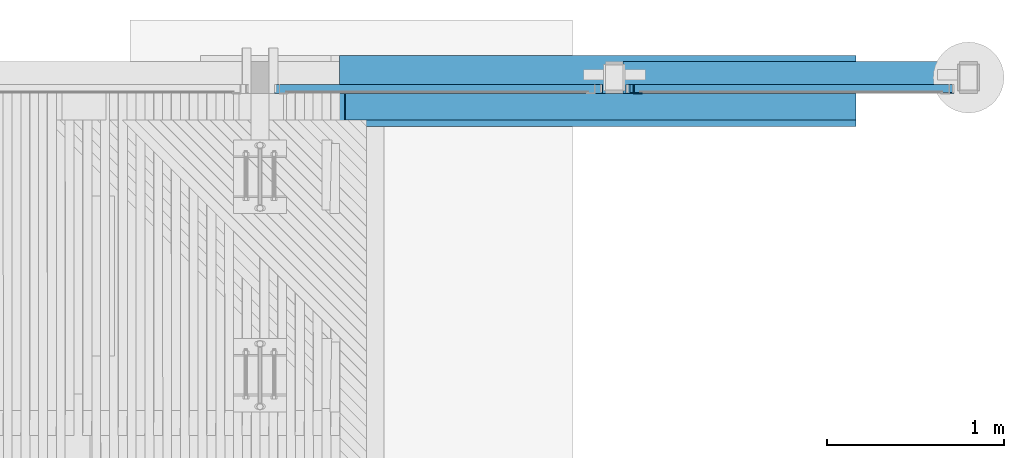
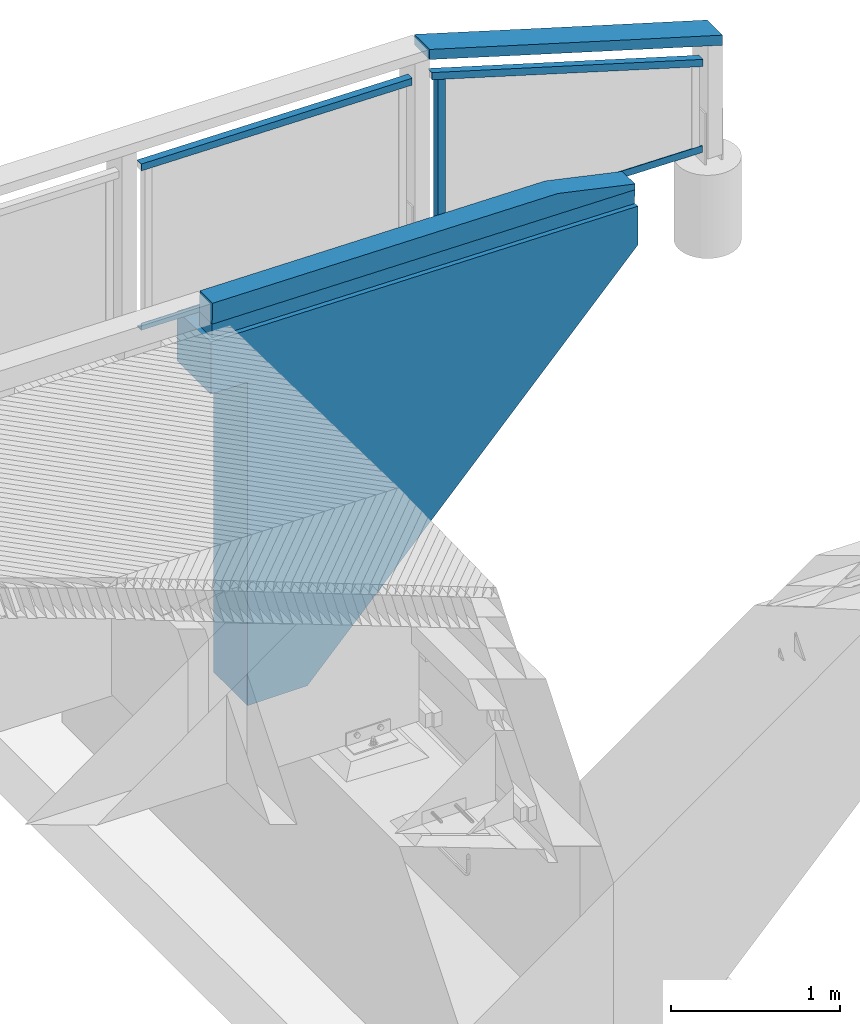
# One storey, part 49 of 65: 9 beams.
"""IFC2X3 building model written with IfcOpenShell, lengths in millimetres."""

from ifc_helpers import new_model, si_unit, frame, origin_with_axes, place, context, subcontext, project, spatial, faceted_brep, material, type_object, element, save


model = new_model("IFC2X3")

# Units and contexts
model_context = context("Model", 3, precision=1e-05, world=origin_with_axes())
body_context = subcontext(model_context, "Body", "Model", "MODEL_VIEW")
ifc_project = project(units=[si_unit("LENGTHUNIT", "METRE", prefix="MILLI"), si_unit("AREAUNIT", "SQUARE_METRE"), si_unit("VOLUMEUNIT", "CUBIC_METRE"), si_unit("MASSUNIT", "GRAM", prefix="KILO"), si_unit("TIMEUNIT", "SECOND"), si_unit("PLANEANGLEUNIT", "RADIAN"), si_unit("SOLIDANGLEUNIT", "STERADIAN"), si_unit("THERMODYNAMICTEMPERATUREUNIT", "DEGREE_CELSIUS"), si_unit("LUMINOUSINTENSITYUNIT", "LUMEN")], contexts=[model_context])

# Site, building, storey
site_placement = place(None, origin_with_axes())
site = spatial("IfcSite", under=ifc_project, at=site_placement, Name="Undefined", CompositionType="ELEMENT")
building_placement = place(site_placement, origin_with_axes())
building = spatial("IfcBuilding", under=site, at=building_placement, Name="Undefined", CompositionType="ELEMENT")
storey_placement = place(building_placement, origin_with_axes())
storey = spatial("IfcBuildingStorey", under=building, at=storey_placement, Name="Undefined", CompositionType="ELEMENT", Elevation=0.0)

# Beams
ifc_material_1 = material(Name="TIMBER/Timber_Undefined")
beam_type_1 = type_object("IfcBeamType", Name="150*100", PredefinedType="NOTDEFINED")
beam_1_placement = place(storey_placement, frame((19364.0305880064, 24439.9999999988, 3118.67572907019), z_axis=(0.0, -1.0, 0.0), x_axis=(-0.999904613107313, 0.0, 0.0138117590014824)))
element("IfcBeam", 1, at=beam_1_placement, inside=storey, type_object=beam_type_1, material=ifc_material_1, Name="TÖRMÄYSJOHDE", ObjectType="150*100", context=body_context, shape_type="Brep", body=[
    faceted_brep([(-3.63797880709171e-12, 50.0, -75.0), (-3.63797880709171e-12, 50.0, 75.0), (2885.27521749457, 50.0, 75.0), (2885.27521749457, 50.0, -75.0), (0.0, -49.9999999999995, 75.0), (2885.27521749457, -49.9999999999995, 75.0), (0.0, -49.9999999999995, -75.0), (2885.27521749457, -49.9999999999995, -75.0)], [[[0, 1, 2, 3]], [[1, 4, 5, 2]], [[4, 6, 7, 5]], [[6, 0, 3, 7]], [[5, 7, 3, 2]], [[6, 4, 1, 0]]]),
])
beam_type_2 = type_object("IfcBeamType", Name="150*150", PredefinedType="NOTDEFINED")
beam_2_placement = place(storey_placement, frame((19366.0358819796, 24439.9999999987, 3243.66334439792), z_axis=(0.0, -1.0, 0.0), x_axis=(-0.999904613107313, 0.0, 0.0138117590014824)))
element("IfcBeam", 2, at=beam_2_placement, inside=storey, type_object=beam_type_2, material=ifc_material_1, Name="TÖRMÄYSJOHDE", ObjectType="150*150", context=body_context, shape_type="Brep", body=[
    faceted_brep([(2885.27521749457, -74.9999999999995, 75.0), (2885.27521749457, -74.9999999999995, -75.0), (2885.27521749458, 75.0, -75.0), (2885.27521749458, 75.0, 75.0), (3.63797880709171e-12, 75.0000000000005, -75.0), (3.63797880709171e-12, 75.0000000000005, 75.0), (3.63797880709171e-12, 33.1222400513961, -75.0), (3.63797880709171e-12, 33.1222400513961, 75.0), (529.511118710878, -75.0, 75.0), (529.511118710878, -75.0, -75.0)], [[[0, 1, 2, 3]], [[4, 5, 3, 2]], [[5, 4, 6, 7]], [[0, 3, 5, 7, 8]], [[1, 0, 8, 9]], [[4, 2, 1, 9, 6]], [[8, 7, 6, 9]]]),
])
ifc_material_2 = material(Name="CONCRETE/Concrete_Undefined")
beam_type_3 = type_object("IfcBeamType", Name="2800*400", PredefinedType="NOTDEFINED")
beam_3_placement = place(storey_placement, frame((16430.3400332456, 24530.0, 1712.66804762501), z_axis=(0.0140428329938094, 0.0, 0.999901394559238), x_axis=(0.999901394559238, 0.0, -0.0140428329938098)))
element("IfcBeam", 3, at=beam_3_placement, inside=storey, type_object=beam_type_3, material=ifc_material_2, Name="SIIPIMUURI", ObjectType="2800*400", context=body_context, shape_type="Brep", body=[
    faceted_brep([(0.280884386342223, 199.999999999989, 1380.0), (3.63797880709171e-12, -200.0, 1400.0), (2915.2874638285, -200.0, 1400.0), (2915.5683481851, 200.0, 1380.0), (270.457242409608, 199.999999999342, -54.8754727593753), (270.457242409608, -200.0, -54.8754727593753), (255.29098277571, -200.0, 1025.01803336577), (255.29098277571, 199.999999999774, 1025.01803336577), (288.066954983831, 200.0, -1308.75182153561), (288.066954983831, -200.0, -1308.75182153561), (697.173583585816, 200.0, -1303.00623892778), (697.173583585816, -200.0, -1303.00623892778), (2919.22031514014, 200.0, 1119.96651154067), (2919.22031514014, -200.0, 1119.96651154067), (5.31563413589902, -200.0, 1021.50732511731), (5.31563413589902, 199.999999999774, 1021.50732511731)], [[[0, 1, 2, 3]], [[4, 5, 6, 7]], [[8, 9, 5, 4]], [[10, 11, 9, 8]], [[12, 13, 11, 10]], [[13, 12, 3, 2]], [[6, 5, 9, 11, 13, 2, 1, 14]], [[7, 6, 14, 15]], [[12, 10, 8, 4, 7, 15, 0, 3]], [[15, 14, 1, 0]]]),
])
ifc_material_3 = material(Name="STEEL/S235JR")
beam_type_4 = type_object("IfcBeamType", Name="L50*5", PredefinedType="NOTDEFINED")
beam_4_placement = place(storey_placement, frame((18132.4988327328, 24539.9900000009, 4313.72557635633), z_axis=(0.0, 1.0, 0.0), x_axis=(0.0, 0.0, -1.0)))
element("IfcBeam", 4, at=beam_4_placement, inside=storey, type_object=beam_type_4, material=ifc_material_3, Name="BEAM", ObjectType="L50*5", context=body_context, shape_type="Brep", body=[
    faceted_brep([(0.433759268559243, 25.0, -25.0), (0.433759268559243, 25.0, 25.0), (1081.79211420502, 25.0, 25.0), (1081.79211420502, 25.0, -25.0), (1.92634540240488, 20.0, 25.0), (1081.79211420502, 20.0, 25.0), (1.92634540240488, 20.0, -20.0), (1081.79211420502, 20.0, -20.0), (15.3596206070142, -25.0, -20.0), (1081.79211420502, -25.0, -20.0), (15.3596206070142, -25.0, -25.0), (1081.79211420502, -25.0, -25.0)], [[[0, 1, 2, 3]], [[1, 4, 5, 2]], [[4, 6, 7, 5]], [[6, 8, 9, 7]], [[8, 10, 11, 9]], [[10, 0, 3, 11]], [[5, 7, 9, 11, 3, 2]], [[10, 8, 6, 4, 1, 0]]]),
])
beam_5_placement = place(storey_placement, frame((18083.3729630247, 24539.9900000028, 3207.2917129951), z_axis=(0.0, 1.0, 0.0), x_axis=(0.999888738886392, 0.0, -0.0149167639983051)))
element("IfcBeam", 5, at=beam_5_placement, inside=storey, type_object=beam_type_4, material=ifc_material_3, Name="BEAM", ObjectType="L50*5", context=body_context, shape_type="Brep", body=[
    faceted_brep([(4.50264671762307, 24.9999999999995, -25.0), (4.50264671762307, 24.9999999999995, 25.0), (1829.70266874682, 24.9999999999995, 25.0), (1829.70266874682, 24.9999999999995, -25.0), (4.42805459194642, 20.0, 25.0), (1829.62807662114, 20.0000000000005, 25.0), (4.42805459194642, 20.0, -20.0), (1829.62807662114, 20.0000000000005, -20.0), (3.7567255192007, -24.9999999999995, -20.0), (1828.9567475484, -25.0, -20.0), (3.7567255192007, -24.9999999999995, -25.0), (1828.9567475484, -25.0, -25.0)], [[[0, 1, 2, 3]], [[1, 4, 5, 2]], [[4, 6, 7, 5]], [[6, 8, 9, 7]], [[8, 10, 11, 9]], [[10, 0, 3, 11]], [[5, 7, 9, 11, 3, 2]], [[10, 8, 6, 4, 1, 0]]]),
])
beam_6_placement = place(storey_placement, frame((16083.3729630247, 24539.9900000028, 3237.1285610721), z_axis=(0.0, 1.0, 0.0), x_axis=(0.999888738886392, 0.0, -0.0149167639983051)))
element("IfcBeam", 6, at=beam_6_placement, inside=storey, type_object=beam_type_4, material=ifc_material_3, Name="BEAM", ObjectType="L50*5", context=body_context, shape_type="Brep", body=[
    faceted_brep([(0.0, 25.0, -25.0), (0.0, 25.0, 25.0), (1849.2053154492, 25.0, 25.0), (1849.2053154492, 25.0, -25.0), (0.0, 20.0, 25.0), (1849.2053154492, 20.0, 25.0), (0.0, 20.0, -20.0), (1849.2053154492, 20.0, -20.0), (0.0, -25.0, -20.0), (1849.2053154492, -24.9999999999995, -20.0), (0.0, -25.0, -25.0), (1849.2053154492, -24.9999999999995, -25.0)], [[[0, 1, 2, 3]], [[1, 4, 5, 2]], [[4, 6, 7, 5]], [[6, 8, 9, 7]], [[8, 10, 11, 9]], [[10, 0, 3, 11]], [[5, 7, 9, 11, 3, 2]], [[10, 8, 6, 4, 1, 0]]]),
])
beam_7_placement = place(storey_placement, frame((19925.5986132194, 24539.9899999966, 3796.64555509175), z_axis=(0.0, 1.0, 0.0), x_axis=(-0.958216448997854, 0.0, 0.286044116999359)))
element("IfcBeam", 7, at=beam_7_placement, inside=storey, type_object=beam_type_4, material=ifc_material_3, Name="BEAM", ObjectType="L50*5", context=body_context, shape_type="Brep", body=[
    faceted_brep([(15.918454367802, 25.0000000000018, -25.0), (15.918454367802, 25.0000000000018, 25.0), (1946.58850666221, 25.0000000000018, 25.0), (1946.58850666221, 25.0000000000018, -25.0), (14.4258682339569, 20.0000000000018, 25.0), (1945.09592052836, 20.0, 25.0), (14.4258682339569, 20.0000000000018, -20.0), (1945.09592052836, 20.0, -20.0), (0.992593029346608, -25.0, -20.0), (1931.66264532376, -24.9999999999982, -20.0), (0.992593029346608, -25.0, -25.0), (1931.66264532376, -24.9999999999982, -25.0)], [[[0, 1, 2, 3]], [[1, 4, 5, 2]], [[4, 6, 7, 5]], [[6, 8, 9, 7]], [[8, 10, 11, 9]], [[10, 0, 3, 11]], [[5, 7, 9, 11, 3, 2]], [[10, 8, 6, 4, 1, 0]]]),
])
beam_8_placement = place(storey_placement, frame((17931.6266682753, 24539.9899999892, 4359.54864823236), z_axis=(0.0, 1.0, 0.0), x_axis=(-0.999888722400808, 0.0, 0.0149178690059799)))
element("IfcBeam", 8, at=beam_8_placement, inside=storey, type_object=beam_type_4, material=ifc_material_3, Name="BEAM", ObjectType="L50*5", context=body_context, shape_type="Brep", body=[
    faceted_brep([(0.0, 25.0, -25.0), (0.0, 25.0, 25.0), (1849.2053154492, 25.0, 25.0), (1849.2053154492, 25.0, -25.0), (0.0, 20.0, 25.0), (1849.2053154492, 20.0, 25.0), (0.0, 20.0, -20.0), (1849.2053154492, 20.0, -20.0), (0.0, -25.0, -20.0), (1849.2053154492, -24.9999999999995, -20.0), (0.0, -25.0, -25.0), (1849.2053154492, -24.9999999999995, -25.0)], [[[0, 1, 2, 3]], [[1, 4, 5, 2]], [[4, 6, 7, 5]], [[6, 8, 9, 7]], [[8, 10, 11, 9]], [[10, 0, 3, 11]], [[5, 7, 9, 11, 3, 2]], [[10, 8, 6, 4, 1, 0]]]),
])
beam_type_5 = type_object("IfcBeamType", Name="180*70", PredefinedType="NOTDEFINED")
beam_9_placement = place(storey_placement, frame((18039.9342024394, 24605.0099640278, 4517.05500293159), z_axis=(0.0, -1.0, 0.0), x_axis=(0.958243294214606, 0.0, -0.285954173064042)))
element("IfcBeam", 9, at=beam_9_placement, inside=storey, type_object=beam_type_5, material=ifc_material_1, Name="YLÄJOHDE", ObjectType="180*70", context=body_context, shape_type="Brep", body=[
    faceted_brep([(41.6879268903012, -35.0699417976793, -90.0), (41.6879268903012, -35.0699417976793, 90.0), (20.9594530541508, -35.0351891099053, 90.0), (20.9594530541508, -35.0351891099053, -90.0), (41.8028913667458, 34.9299637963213, 90.0), (0.0598773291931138, 34.9999487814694, 90.0), (41.8028913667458, 34.9299637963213, -90.0), (0.0598773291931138, 34.9999487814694, -90.0), (83.5459100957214, 34.8628353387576, -90.0), (83.4357358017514, -35.1370779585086, -90.0), (83.4357358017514, -35.1370779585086, 90.0), (83.5459100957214, 34.8628353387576, 90.0), (125.288933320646, 34.7985634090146, 90.0), (125.288933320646, 34.7985634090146, -90.0), (125.183549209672, -35.2013572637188, -90.0), (125.183549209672, -35.2013572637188, 90.0), (166.931366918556, -35.2627797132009, 90.0), (167.031960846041, 34.7371480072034, 90.0), (167.031960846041, 34.7371480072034, -90.0), (166.931366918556, -35.2627797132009, -90.0), (208.679188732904, -35.3213453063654, -90.0), (208.679188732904, -35.3213453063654, 90.0), (208.774992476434, 34.6785891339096, 90.0), (208.774992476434, 34.6785891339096, -90.0), (250.518028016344, 34.6228867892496, -90.0), (250.42701445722, -35.3770540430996, -90.0), (250.42701445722, -35.3770540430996, 90.0), (250.518028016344, 34.6228867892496, 90.0), (292.261067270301, 34.5700409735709, 90.0), (292.261067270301, 34.5700409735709, -90.0), (292.174843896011, -35.4299059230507, -90.0), (292.174843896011, -35.4299059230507, 90.0), (333.922676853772, -35.4799009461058, 90.0), (334.004110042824, 34.52005168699, 90.0), (334.004110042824, 34.52005168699, -90.0), (333.922676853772, -35.4799009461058, -90.0), (375.670513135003, -35.5270391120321, -90.0), (375.670513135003, -35.5270391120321, 90.0), (375.747156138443, 34.4729189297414, 90.0), (375.747156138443, 34.4729189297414, -90.0), (417.490205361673, 34.4286427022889, -90.0), (417.418352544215, -35.5713204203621, -90.0), (417.418352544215, -35.5713204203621, 90.0), (417.490205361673, 34.4286427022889, 90.0), (459.233257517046, 34.3872230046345, 90.0), (459.233257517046, 34.3872230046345, -90.0), (459.166194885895, -35.6127448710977, -90.0), (459.166194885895, -35.6127448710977, 90.0), (500.914039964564, -35.6513124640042, 90.0), (500.97631240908, 34.3486598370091, 90.0), (500.97631240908, 34.3486598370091, -90.0), (500.914039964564, -35.6513124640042, -90.0), (542.661887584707, -35.6870231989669, -90.0), (542.661887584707, -35.6870231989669, 90.0), (542.719369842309, 34.3129531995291, 90.0), (542.719369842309, 34.3129531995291, -90.0), (584.462429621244, 34.2801030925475, -90.0), (584.40973755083, -35.7198770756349, -90.0), (584.40973755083, -35.7198770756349, 90.0), (584.462429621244, 34.2801030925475, 90.0), (626.205491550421, 34.2501095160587, 90.0), (626.205491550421, 34.2501095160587, -90.0), (626.157589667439, -35.7498740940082, -90.0), (626.157589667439, -35.7498740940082, 90.0), (667.905443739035, -35.7770142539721, 90.0), (667.948555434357, 34.2229724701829, 90.0), (667.948555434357, 34.2229724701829, -90.0), (667.905443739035, -35.7770142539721, -90.0), (709.653299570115, -35.801297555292, -90.0), (709.653299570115, -35.801297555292, 90.0), (709.691621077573, 34.1986919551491, 90.0), (709.691621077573, 34.1986919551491, -90.0), (751.434688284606, 34.1772679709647, -90.0), (751.401156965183, -35.8227239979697, -90.0), (751.401156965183, -35.8227239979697, 90.0), (751.434688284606, 34.1772679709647, 90.0), (793.177756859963, 34.1587005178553, 90.0), (793.177756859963, 34.1587005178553, -90.0), (793.149015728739, -35.8412935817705, -90.0), (793.149015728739, -35.8412935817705, 90.0), (834.896875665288, -35.8570063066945, 90.0), (834.920826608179, 34.1429895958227, 90.0), (834.920826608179, 34.1429895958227, -90.0), (834.896875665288, -35.8570063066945, -90.0), (876.644736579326, -35.8698621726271, -90.0), (876.644736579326, -35.8698621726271, 90.0), (876.663897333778, 34.1301352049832, 90.0), (876.663897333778, 34.1301352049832, -90.0), (918.406968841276, 34.1201373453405, -90.0), (918.392598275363, -35.8798611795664, -90.0), (918.392598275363, -35.8798611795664, 90.0), (918.406968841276, 34.1201373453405, 90.0), (960.150040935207, 34.112996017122, 90.0), (960.150040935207, 34.112996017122, -90.0), (960.140460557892, -35.8870033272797, -90.0), (960.140460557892, -35.8870033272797, 90.0), (1001.88832323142, -35.8912886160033, 90.0), (1001.89311342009, 34.1087112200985, 90.0), (1001.89311342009, 34.1087112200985, -90.0), (1001.88832323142, -35.8912886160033, -90.0), (1043.63618610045, -35.8927170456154, -90.0), (1043.63618610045, -35.8927170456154, 90.0), (1043.63618610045, 34.1072829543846, 90.0), (1043.63618610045, 34.1072829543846, -90.0), (1085.3792587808, 34.1087112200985, -90.0), (1085.38404896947, -35.8912886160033, -90.0), (1085.38404896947, -35.8912886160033, 90.0), (1085.3792587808, 34.1087112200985, 90.0), (1127.12233126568, 34.112996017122, 90.0), (1127.12233126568, 34.112996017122, -90.0), (1127.131911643, -35.8870033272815, -90.0), (1127.131911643, -35.8870033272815, 90.0), (1168.87977392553, -35.8798611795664, 90.0), (1168.86540335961, 34.1201373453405, 90.0), (1168.86540335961, 34.1201373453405, -90.0), (1168.87977392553, -35.8798611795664, -90.0), (1210.62763562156, -35.8698621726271, -90.0), (1210.62763562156, -35.8698621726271, 90.0), (1210.60847486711, 34.130135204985, 90.0), (1210.60847486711, 34.130135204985, -90.0), (1252.35154559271, 34.1429895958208, -90.0), (1252.3754965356, -35.8570063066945, -90.0), (1252.3754965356, -35.8570063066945, 90.0), (1252.35154559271, 34.1429895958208, 90.0), (1294.09461534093, 34.1587005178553, 90.0), (1294.09461534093, 34.1587005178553, -90.0), (1294.12335647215, -35.8412935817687, -90.0), (1294.12335647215, -35.8412935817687, 90.0), (1335.87121523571, -35.8227239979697, 90.0), (1335.83768391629, 34.1772679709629, 90.0), (1335.83768391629, 34.1772679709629, -90.0), (1335.87121523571, -35.8227239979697, -90.0), (1377.61907263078, -35.801297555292, -90.0), (1377.61907263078, -35.801297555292, 90.0), (1377.58075112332, 34.1986919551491, 90.0), (1377.58075112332, 34.1986919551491, -90.0), (1419.32381676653, 34.222972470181, -90.0), (1419.36692846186, -35.7770142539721, -90.0), (1419.36692846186, -35.7770142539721, 90.0), (1419.32381676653, 34.222972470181, 90.0), (1461.06688065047, 34.2501095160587, 90.0), (1461.06688065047, 34.2501095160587, -90.0), (1461.11478253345, -35.74987409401, -90.0), (1461.11478253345, -35.74987409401, 90.0), (1502.86263465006, -35.7198770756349, 90.0), (1502.80994257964, 34.2801030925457, 90.0), (1502.80994257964, 34.2801030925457, -90.0), (1502.86263465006, -35.7198770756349, -90.0), (1544.61048461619, -35.6870231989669, -90.0), (1544.61048461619, -35.6870231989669, 90.0), (1544.55300235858, 34.3129531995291, 90.0), (1544.55300235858, 34.3129531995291, -90.0), (1586.29605979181, 34.3486598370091, -90.0), (1586.35833223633, -35.6513124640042, -90.0), (1586.35833223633, -35.6513124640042, 90.0), (1586.29605979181, 34.3486598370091, 90.0), (1628.03911468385, 34.3872230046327, 90.0), (1628.03911468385, 34.3872230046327, -90.0), (1628.10617731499, -35.6127448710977, -90.0), (1628.10617731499, -35.6127448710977, 90.0), (1669.85401965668, -35.5713204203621, 90.0), (1669.78216683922, 34.4286427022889, 90.0), (1669.78216683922, 34.4286427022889, -90.0), (1669.85401965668, -35.5713204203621, -90.0), (1711.60185906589, -35.5270391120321, -90.0), (1711.60185906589, -35.5270391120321, 90.0), (1711.52521606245, 34.4729189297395, 90.0), (1711.52521606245, 34.4729189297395, -90.0), (1753.26826215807, 34.52005168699, -90.0), (1753.34969534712, -35.4799009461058, -90.0), (1753.34969534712, -35.4799009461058, 90.0), (1753.26826215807, 34.52005168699, 90.0), (1795.01130493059, 34.5700409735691, 90.0), (1795.01130493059, 34.5700409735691, -90.0), (1795.09752830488, -35.4299059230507, -90.0), (1795.09752830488, -35.4299059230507, 90.0), (1836.84535774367, -35.3770540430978, 90.0), (1836.75434418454, 34.6228867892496, 90.0), (1836.75434418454, 34.6228867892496, -90.0), (1836.84535774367, -35.3770540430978, -90.0), (1878.59318346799, -35.3213453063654, -90.0), (1878.59318346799, -35.3213453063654, 90.0), (1878.49737972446, 34.6785891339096, 90.0), (1878.49737972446, 34.6785891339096, -90.0), (1920.24041135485, 34.7371480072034, -90.0), (1920.34100528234, -35.2627797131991, -90.0), (1920.34100528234, -35.2627797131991, 90.0), (1920.24041135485, 34.7371480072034, 90.0), (1961.98343888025, 34.7985634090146, 90.0), (1961.98343888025, 34.7985634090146, -90.0), (1962.08882299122, -35.2013572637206, -90.0), (1962.08882299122, -35.2013572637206, 90.0), (2003.83663639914, -35.1370779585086, 90.0), (2003.72646210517, 34.8628353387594, 90.0), (2003.72646210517, 34.8628353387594, -90.0), (2003.83663639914, -35.1370779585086, -90.0), (2045.58444531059, -35.0699417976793, 90.0), (2045.58444531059, -35.0699417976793, -90.0), (2087.33224953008, -34.9999487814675, -90.0), (2087.33224953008, -34.9999487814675, 90.0), (2045.46948083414, 34.9299637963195, 90.0), (2045.46948083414, 34.9299637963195, -90.0), (2087.2124948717, 34.9999487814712, -90.0), (2108.09074495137, -34.9637252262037, -90.0), (2108.09074495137, -34.9637252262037, 90.0), (2087.2124948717, 34.9999487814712, 90.0)], [[[0, 1, 2, 3]], [[1, 4, 5, 2]], [[4, 6, 7, 5]], [[2, 5, 7, 3]], [[6, 0, 3, 7]], [[0, 6, 8, 9]], [[1, 0, 9, 10]], [[4, 1, 10, 11]], [[6, 4, 11, 8]], [[8, 11, 12, 13]], [[9, 8, 13, 14]], [[10, 9, 14, 15]], [[11, 10, 15, 12]], [[12, 15, 16, 17]], [[13, 12, 17, 18]], [[14, 13, 18, 19]], [[15, 14, 19, 16]], [[16, 19, 20, 21]], [[17, 16, 21, 22]], [[18, 17, 22, 23]], [[19, 18, 23, 20]], [[20, 23, 24, 25]], [[21, 20, 25, 26]], [[22, 21, 26, 27]], [[23, 22, 27, 24]], [[24, 27, 28, 29]], [[25, 24, 29, 30]], [[26, 25, 30, 31]], [[27, 26, 31, 28]], [[28, 31, 32, 33]], [[29, 28, 33, 34]], [[30, 29, 34, 35]], [[31, 30, 35, 32]], [[32, 35, 36, 37]], [[33, 32, 37, 38]], [[34, 33, 38, 39]], [[35, 34, 39, 36]], [[36, 39, 40, 41]], [[37, 36, 41, 42]], [[38, 37, 42, 43]], [[39, 38, 43, 40]], [[40, 43, 44, 45]], [[41, 40, 45, 46]], [[42, 41, 46, 47]], [[43, 42, 47, 44]], [[44, 47, 48, 49]], [[45, 44, 49, 50]], [[46, 45, 50, 51]], [[47, 46, 51, 48]], [[48, 51, 52, 53]], [[49, 48, 53, 54]], [[50, 49, 54, 55]], [[51, 50, 55, 52]], [[52, 55, 56, 57]], [[53, 52, 57, 58]], [[54, 53, 58, 59]], [[55, 54, 59, 56]], [[56, 59, 60, 61]], [[57, 56, 61, 62]], [[58, 57, 62, 63]], [[59, 58, 63, 60]], [[60, 63, 64, 65]], [[61, 60, 65, 66]], [[62, 61, 66, 67]], [[63, 62, 67, 64]], [[64, 67, 68, 69]], [[65, 64, 69, 70]], [[66, 65, 70, 71]], [[67, 66, 71, 68]], [[68, 71, 72, 73]], [[69, 68, 73, 74]], [[70, 69, 74, 75]], [[71, 70, 75, 72]], [[72, 75, 76, 77]], [[73, 72, 77, 78]], [[74, 73, 78, 79]], [[75, 74, 79, 76]], [[76, 79, 80, 81]], [[77, 76, 81, 82]], [[78, 77, 82, 83]], [[79, 78, 83, 80]], [[80, 83, 84, 85]], [[81, 80, 85, 86]], [[82, 81, 86, 87]], [[83, 82, 87, 84]], [[84, 87, 88, 89]], [[85, 84, 89, 90]], [[86, 85, 90, 91]], [[87, 86, 91, 88]], [[88, 91, 92, 93]], [[89, 88, 93, 94]], [[90, 89, 94, 95]], [[91, 90, 95, 92]], [[92, 95, 96, 97]], [[93, 92, 97, 98]], [[94, 93, 98, 99]], [[95, 94, 99, 96]], [[96, 99, 100, 101]], [[97, 96, 101, 102]], [[98, 97, 102, 103]], [[99, 98, 103, 100]], [[100, 103, 104, 105]], [[101, 100, 105, 106]], [[102, 101, 106, 107]], [[103, 102, 107, 104]], [[104, 107, 108, 109]], [[105, 104, 109, 110]], [[106, 105, 110, 111]], [[107, 106, 111, 108]], [[108, 111, 112, 113]], [[109, 108, 113, 114]], [[110, 109, 114, 115]], [[111, 110, 115, 112]], [[112, 115, 116, 117]], [[113, 112, 117, 118]], [[114, 113, 118, 119]], [[115, 114, 119, 116]], [[116, 119, 120, 121]], [[117, 116, 121, 122]], [[118, 117, 122, 123]], [[119, 118, 123, 120]], [[120, 123, 124, 125]], [[121, 120, 125, 126]], [[122, 121, 126, 127]], [[123, 122, 127, 124]], [[124, 127, 128, 129]], [[125, 124, 129, 130]], [[126, 125, 130, 131]], [[127, 126, 131, 128]], [[128, 131, 132, 133]], [[129, 128, 133, 134]], [[130, 129, 134, 135]], [[131, 130, 135, 132]], [[132, 135, 136, 137]], [[133, 132, 137, 138]], [[134, 133, 138, 139]], [[135, 134, 139, 136]], [[136, 139, 140, 141]], [[137, 136, 141, 142]], [[138, 137, 142, 143]], [[139, 138, 143, 140]], [[140, 143, 144, 145]], [[141, 140, 145, 146]], [[142, 141, 146, 147]], [[143, 142, 147, 144]], [[144, 147, 148, 149]], [[145, 144, 149, 150]], [[146, 145, 150, 151]], [[147, 146, 151, 148]], [[148, 151, 152, 153]], [[149, 148, 153, 154]], [[150, 149, 154, 155]], [[151, 150, 155, 152]], [[152, 155, 156, 157]], [[153, 152, 157, 158]], [[154, 153, 158, 159]], [[155, 154, 159, 156]], [[156, 159, 160, 161]], [[157, 156, 161, 162]], [[158, 157, 162, 163]], [[159, 158, 163, 160]], [[160, 163, 164, 165]], [[161, 160, 165, 166]], [[162, 161, 166, 167]], [[163, 162, 167, 164]], [[164, 167, 168, 169]], [[165, 164, 169, 170]], [[166, 165, 170, 171]], [[167, 166, 171, 168]], [[168, 171, 172, 173]], [[169, 168, 173, 174]], [[170, 169, 174, 175]], [[171, 170, 175, 172]], [[172, 175, 176, 177]], [[173, 172, 177, 178]], [[174, 173, 178, 179]], [[175, 174, 179, 176]], [[176, 179, 180, 181]], [[177, 176, 181, 182]], [[178, 177, 182, 183]], [[179, 178, 183, 180]], [[180, 183, 184, 185]], [[181, 180, 185, 186]], [[182, 181, 186, 187]], [[183, 182, 187, 184]], [[184, 187, 188, 189]], [[185, 184, 189, 190]], [[186, 185, 190, 191]], [[187, 186, 191, 188]], [[188, 191, 192, 193]], [[189, 188, 193, 194]], [[190, 189, 194, 195]], [[191, 190, 195, 192]], [[196, 197, 198, 199]], [[192, 195, 197, 196]], [[193, 192, 196, 200]], [[194, 193, 200, 201]], [[195, 194, 201, 197]], [[197, 201, 202, 198]], [[198, 202, 203]], [[199, 198, 203, 204]], [[199, 204, 205]], [[200, 196, 199, 205]], [[201, 200, 205, 202]], [[204, 203, 202, 205]]]),
])

save(model, "model.ifc")
